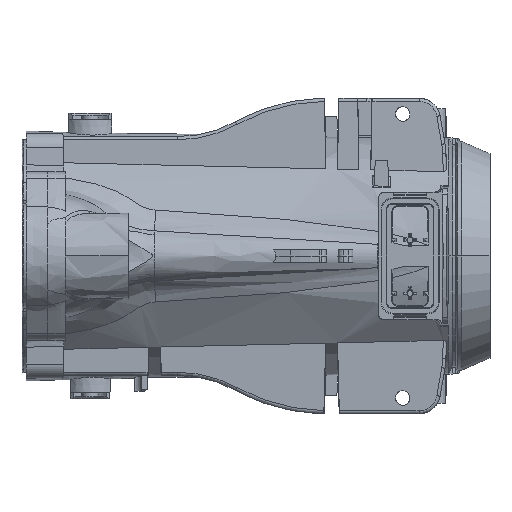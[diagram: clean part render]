
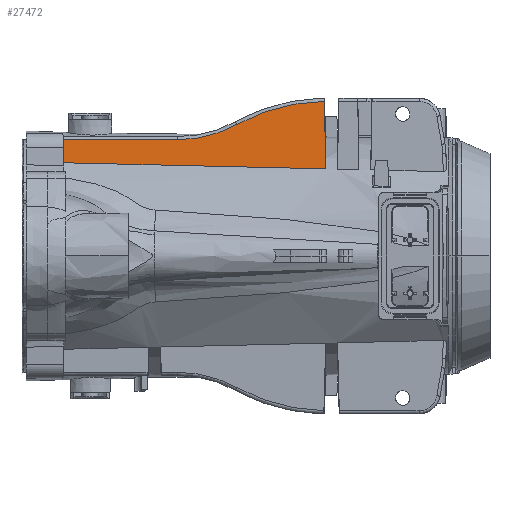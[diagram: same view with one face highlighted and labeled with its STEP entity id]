
A CAD part, front view. The second image highlights one B-rep face of the part: STEP entity #27472.
In plain terms, the highlighted free-form (B-spline) face has degree [1, 3] with [2, 7] control points.
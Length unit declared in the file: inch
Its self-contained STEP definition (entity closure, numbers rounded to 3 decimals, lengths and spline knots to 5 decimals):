
#1802 = CARTESIAN_POINT ( 'NONE',  ( 0.66927, -1.48492, 3.35038 ) ) ;
#2560 = CARTESIAN_POINT ( 'NONE',  ( 7.75591, -1.53276, 1.35774 ) ) ;
#2911 = CARTESIAN_POINT ( 'NONE',  ( 0.69174, -1.52756, 1.72156 ) ) ;
#3851 = EDGE_CURVE ( 'NONE', #53566, #54134, #10808, .T. ) ;
#7986 = CARTESIAN_POINT ( 'NONE',  ( 3.17493, -1.51409, 2.17883 ) ) ;
#9049 = CARTESIAN_POINT ( 'NONE',  ( 5.39374, -1.53276, 1.4143 ) ) ;
#9326 = CARTESIAN_POINT ( 'NONE',  ( 4.13849, -1.50361, 2.55656 ) ) ;
#10808 = B_SPLINE_CURVE_WITH_KNOTS ( 'NONE', 3,
 ( #39230, #15892, #68351, #10901, #62615, #62990, #69466, #51090, #17008, #62227 ),
 .UNSPECIFIED., .F., .F.,
 ( 4, 3, 3, 4 ),
 ( 0.1561, 0.15647, 0.17212, 0.18777 ),
 .UNSPECIFIED. ) ;
#10819 = CARTESIAN_POINT ( 'NONE',  ( 4.39869, -1.50072, 2.66074 ) ) ;
#10901 = CARTESIAN_POINT ( 'NONE',  ( 5.50658, -1.49532, 2.84086 ) ) ;
#11543 = CARTESIAN_POINT ( 'NONE',  ( 2.20435, -1.5155, 2.14722 ) ) ;
#11623 = CARTESIAN_POINT ( 'NONE',  ( 3.91563, -1.52756, 1.64738 ) ) ;
#14408 = CARTESIAN_POINT ( 'NONE',  ( 3.03153, -1.53276, 1.46938 ) ) ;
#15163 = FACE_OUTER_BOUND ( 'NONE', #69247, .T. ) ;
#15892 = CARTESIAN_POINT ( 'NONE',  ( 5.50642, -1.49507, 2.85068 ) ) ;
#16120 = ORIENTED_EDGE ( 'NONE', *, *, #65378, .T. ) ;
#16523 = CARTESIAN_POINT ( 'NONE',  ( 2.75554, -1.51517, 2.14722 ) ) ;
#16564 = CARTESIAN_POINT ( 'NONE',  ( 4.80373, -1.49749, 2.77469 ) ) ;
#17008 = CARTESIAN_POINT ( 'NONE',  ( 5.52407, -1.52219, 1.81464 ) ) ;
#17484 = EDGE_CURVE ( 'NONE', #54134, #42338, #64574, .T. ) ;
#17770 = CARTESIAN_POINT ( 'NONE',  ( 0.68431, -1.52013, 2.00533 ) ) ;
#18312 = CARTESIAN_POINT ( 'NONE',  ( 2.98567, -1.51487, 2.15325 ) ) ;
#18688 = CARTESIAN_POINT ( 'NONE',  ( 3.31479, -1.51326, 2.20721 ) ) ;
#19192 = B_SPLINE_CURVE_WITH_KNOTS ( 'NONE', 3,
 ( #37041, #19444, #60794, #24068, #47388, #18688, #71150, #7986, #66181, #18312, #41661, #60419 ),
 .UNSPECIFIED., .F., .F.,
 ( 4, 2, 2, 2, 2, 4 ),
 ( 0., 0.00718, 0.01437, 0.01796, 0.02155, 0.02874 ),
 .UNSPECIFIED. ) ;
#19444 = CARTESIAN_POINT ( 'NONE',  ( 3.80302, -1.50839, 2.38182 ) ) ;
#19772 = CARTESIAN_POINT ( 'NONE',  ( 7.80315, -1.53276, 1.3566 ) ) ;
#20522 = CARTESIAN_POINT ( 'NONE',  ( 5.39371, -1.48492, 3.24134 ) ) ;
#21934 = CARTESIAN_POINT ( 'NONE',  ( 4.01118, -1.50526, 2.49644 ) ) ;
#22019 = CARTESIAN_POINT ( 'NONE',  ( 2.79491, -1.51515, 2.14722 ) ) ;
#24068 = CARTESIAN_POINT ( 'NONE',  ( 3.54182, -1.51143, 2.2719 ) ) ;
#25383 = B_SPLINE_CURVE_WITH_KNOTS ( 'NONE', 3,
 ( #68976, #16523, #38342, #39869, #63240, #61730, #11543, #63618, #29886, #52099 ),
 .UNSPECIFIED., .F., .F.,
 ( 4, 3, 3, 4 ),
 ( 0., 0.003, 0.015, 0.0537 ),
 .UNSPECIFIED. ) ;
#25488 = ORIENTED_EDGE ( 'NONE', *, *, #3851, .F. ) ;
#27472 = ADVANCED_FACE ( 'NONE', ( #15163 ), #31902, .T. ) ;
#29886 = CARTESIAN_POINT ( 'NONE',  ( 1.18851, -1.51612, 2.14722 ) ) ;
#31902 = B_SPLINE_SURFACE_WITH_KNOTS ( 'NONE', 1, 3, ( 
 ( #66870, #19772, #43125, #2560, #9049, #14408, #37729 ),
 ( #61123, #72993, #38488, #37355, #20522, #61877, #1802 ) ),
 .UNSPECIFIED., .F., .F., .F.,
 ( 2, 2 ),
 ( 4, 3, 4 ),
 ( 0., 1. ),
 ( -0.0018, 0., 0.18005 ),
 .UNSPECIFIED. ) ;
#32031 = CARTESIAN_POINT ( 'NONE',  ( 5.50633, -1.49494, 2.85558 ) ) ;
#34990 = CARTESIAN_POINT ( 'NONE',  ( 0.69174, -1.52756, 1.72156 ) ) ;
#35704 = CARTESIAN_POINT ( 'NONE',  ( 2.30369, -1.52756, 1.68473 ) ) ;
#37041 = CARTESIAN_POINT ( 'NONE',  ( 3.88679, -1.50713, 2.42794 ) ) ;
#37355 = CARTESIAN_POINT ( 'NONE',  ( 7.75588, -1.48492, 3.18477 ) ) ;
#37729 = CARTESIAN_POINT ( 'NONE',  ( 0.66929, -1.53276, 1.52335 ) ) ;
#38342 = CARTESIAN_POINT ( 'NONE',  ( 2.71617, -1.51519, 2.14722 ) ) ;
#38390 = CARTESIAN_POINT ( 'NONE',  ( 5.01244, -1.49633, 2.81429 ) ) ;
#38488 = CARTESIAN_POINT ( 'NONE',  ( 7.7795, -1.48492, 3.1842 ) ) ;
#39230 = CARTESIAN_POINT ( 'NONE',  ( 5.50633, -1.49494, 2.85558 ) ) ;
#39869 = CARTESIAN_POINT ( 'NONE',  ( 2.6768, -1.51522, 2.14722 ) ) ;
#41118 = CARTESIAN_POINT ( 'NONE',  ( 0.68059, -1.51642, 2.14722 ) ) ;
#41661 = CARTESIAN_POINT ( 'NONE',  ( 2.89054, -1.51509, 2.14722 ) ) ;
#42338 = VERTEX_POINT ( 'NONE', #2911 ) ;
#43125 = CARTESIAN_POINT ( 'NONE',  ( 7.77953, -1.53276, 1.35717 ) ) ;
#44096 = ORIENTED_EDGE ( 'NONE', *, *, #17484, .F. ) ;
#44526 = CARTESIAN_POINT ( 'NONE',  ( 5.22311, -1.49544, 2.84317 ) ) ;
#47007 = CARTESIAN_POINT ( 'NONE',  ( 0.68059, -1.51642, 2.14722 ) ) ;
#47029 = B_SPLINE_CURVE_WITH_KNOTS ( 'NONE', 3,
 ( #50268, #63276, #44526, #38390, #69016, #16564, #61776, #62537, #10819, #9326, #21934, #68269 ),
 .UNSPECIFIED., .F., .F.,
 ( 4, 2, 2, 2, 2, 4 ),
 ( 0., 0.01079, 0.01619, 0.02158, 0.03237, 0.04316 ),
 .UNSPECIFIED. ) ;
#47388 = CARTESIAN_POINT ( 'NONE',  ( 3.45217, -1.51225, 2.24267 ) ) ;
#50268 = CARTESIAN_POINT ( 'NONE',  ( 5.50633, -1.49494, 2.85558 ) ) ;
#50549 = VERTEX_POINT ( 'NONE', #22019 ) ;
#50729 = EDGE_CURVE ( 'NONE', #42338, #61973, #55538, .T. ) ;
#51090 = CARTESIAN_POINT ( 'NONE',  ( 5.52057, -1.51681, 2.01989 ) ) ;
#52099 = CARTESIAN_POINT ( 'NONE',  ( 0.68059, -1.51642, 2.14722 ) ) ;
#52937 = CARTESIAN_POINT ( 'NONE',  ( 5.52756, -1.52756, 1.6094 ) ) ;
#53566 = VERTEX_POINT ( 'NONE', #32031 ) ;
#54134 = VERTEX_POINT ( 'NONE', #56348 ) ;
#54400 = ORIENTED_EDGE ( 'NONE', *, *, #57772, .T. ) ;
#55538 = B_SPLINE_CURVE_WITH_KNOTS ( 'NONE', 3,
 ( #34990, #70236, #17770, #41118 ),
 .UNSPECIFIED., .F., .F.,
 ( 4, 4 ),
 ( 0.07754, 0.08836 ),
 .UNSPECIFIED. ) ;
#56348 = CARTESIAN_POINT ( 'NONE',  ( 5.52756, -1.52756, 1.6094 ) ) ;
#57772 = EDGE_CURVE ( 'NONE', #53566, #65067, #47029, .T. ) ;
#60419 = CARTESIAN_POINT ( 'NONE',  ( 2.79491, -1.51515, 2.14722 ) ) ;
#60794 = CARTESIAN_POINT ( 'NONE',  ( 3.71724, -1.5095, 2.34148 ) ) ;
#61123 = CARTESIAN_POINT ( 'NONE',  ( 7.82674, -1.48492, 3.18307 ) ) ;
#61730 = CARTESIAN_POINT ( 'NONE',  ( 2.36184, -1.51541, 2.14722 ) ) ;
#61776 = CARTESIAN_POINT ( 'NONE',  ( 4.73517, -1.49795, 2.75873 ) ) ;
#61877 = CARTESIAN_POINT ( 'NONE',  ( 3.0315, -1.48492, 3.29641 ) ) ;
#61973 = VERTEX_POINT ( 'NONE', #47007 ) ;
#62227 = CARTESIAN_POINT ( 'NONE',  ( 5.52756, -1.52756, 1.6094 ) ) ;
#62537 = CARTESIAN_POINT ( 'NONE',  ( 4.5316, -1.49949, 2.70479 ) ) ;
#62615 = CARTESIAN_POINT ( 'NONE',  ( 5.51008, -1.5007, 2.63562 ) ) ;
#62938 = ORIENTED_EDGE ( 'NONE', *, *, #73630, .T. ) ;
#62990 = CARTESIAN_POINT ( 'NONE',  ( 5.51358, -1.50607, 2.43038 ) ) ;
#63240 = CARTESIAN_POINT ( 'NONE',  ( 2.51932, -1.51531, 2.14722 ) ) ;
#63276 = CARTESIAN_POINT ( 'NONE',  ( 5.36433, -1.49508, 2.85374 ) ) ;
#63618 = CARTESIAN_POINT ( 'NONE',  ( 1.69643, -1.51581, 2.14722 ) ) ;
#64574 = B_SPLINE_CURVE_WITH_KNOTS ( 'NONE', 3,
 ( #52937, #11623, #35704, #64828 ),
 .UNSPECIFIED., .F., .F.,
 ( 4, 4 ),
 ( 0.05662, 0.17948 ),
 .UNSPECIFIED. ) ;
#64828 = CARTESIAN_POINT ( 'NONE',  ( 0.69174, -1.52756, 1.72156 ) ) ;
#65067 = VERTEX_POINT ( 'NONE', #69821 ) ;
#65378 = EDGE_CURVE ( 'NONE', #50549, #61973, #25383, .T. ) ;
#66181 = CARTESIAN_POINT ( 'NONE',  ( 3.12762, -1.51431, 2.17129 ) ) ;
#66870 = CARTESIAN_POINT ( 'NONE',  ( 7.82677, -1.53276, 1.35604 ) ) ;
#68269 = CARTESIAN_POINT ( 'NONE',  ( 3.88679, -1.50713, 2.42794 ) ) ;
#68351 = CARTESIAN_POINT ( 'NONE',  ( 5.5065, -1.4952, 2.84577 ) ) ;
#68976 = CARTESIAN_POINT ( 'NONE',  ( 2.79491, -1.51515, 2.14722 ) ) ;
#69016 = CARTESIAN_POINT ( 'NONE',  ( 4.9423, -1.49668, 2.80246 ) ) ;
#69247 = EDGE_LOOP ( 'NONE', ( #62938, #16120, #72441, #44096, #25488, #54400 ) ) ;
#69466 = CARTESIAN_POINT ( 'NONE',  ( 5.51707, -1.51144, 2.22513 ) ) ;
#69821 = CARTESIAN_POINT ( 'NONE',  ( 3.88679, -1.50713, 2.42794 ) ) ;
#70236 = CARTESIAN_POINT ( 'NONE',  ( 0.68802, -1.52385, 1.86345 ) ) ;
#71150 = CARTESIAN_POINT ( 'NONE',  ( 3.2685, -1.51356, 2.1968 ) ) ;
#72441 = ORIENTED_EDGE ( 'NONE', *, *, #50729, .F. ) ;
#72993 = CARTESIAN_POINT ( 'NONE',  ( 7.80312, -1.48492, 3.18364 ) ) ;
#73630 = EDGE_CURVE ( 'NONE', #65067, #50549, #19192, .T. ) ;
